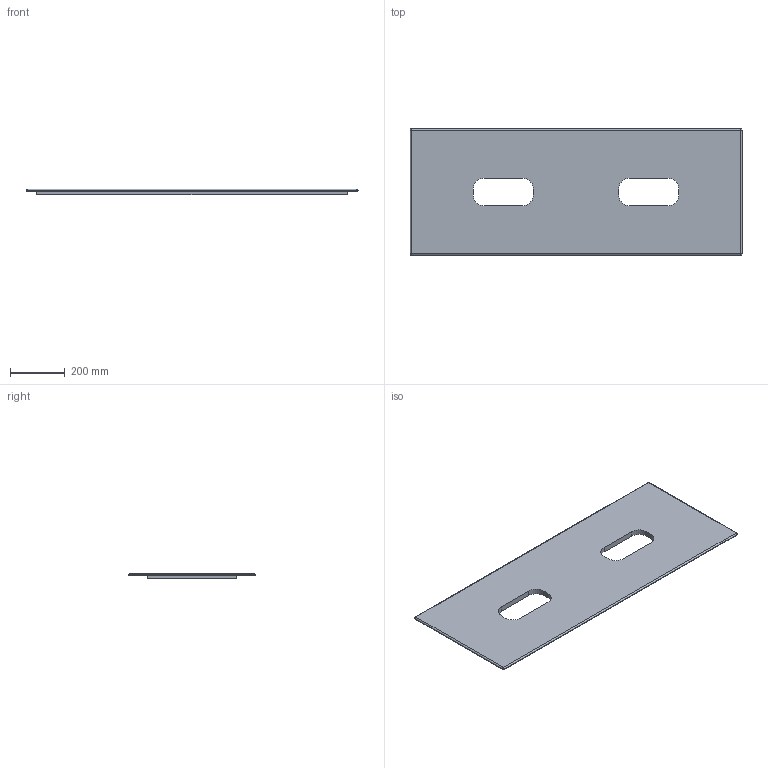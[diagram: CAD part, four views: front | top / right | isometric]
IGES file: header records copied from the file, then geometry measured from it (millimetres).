
Start section: START RECORD GO HERE.
Global section: file name: 3D ART 2054.igs; native system: DASSAULT SYSTEMES CATIA V5 R19 - www.3ds.com; preprocessor: CATIA Version 5 Release 19 SP 5 ; author: Luca; organization: DESKTOP-V7SON24; date: 20191030.174659; units: millimetre
Bounding box: 1210 x 460 x 20 mm (x, y, z)
Surface area: 1105357.4 mm2 (no closed solid volume)
Topology: 0 solids, 0 shells, 52 faces, 252 edges, 248 vertices
Faces by surface type: revolution 28, plane 24
